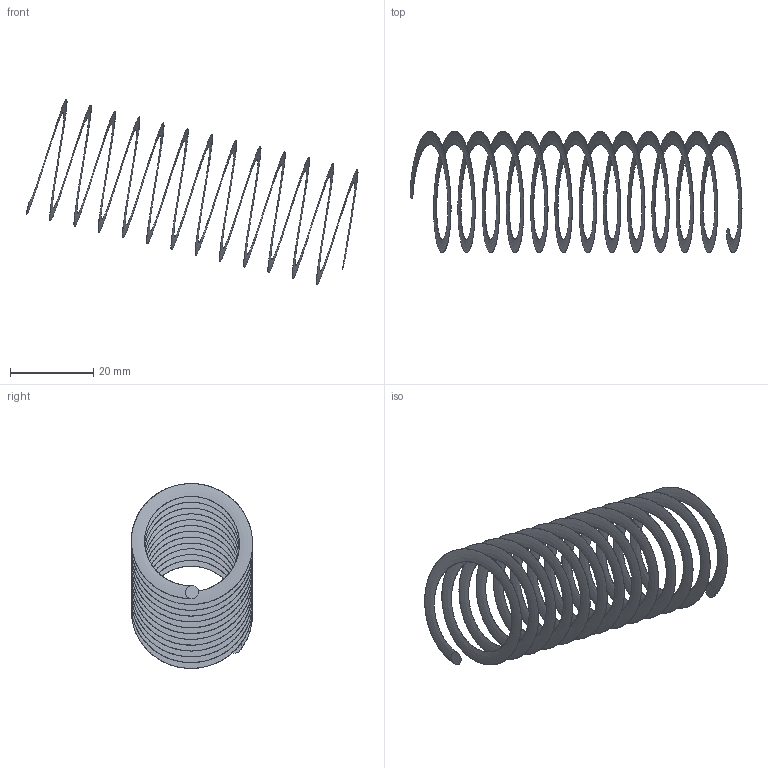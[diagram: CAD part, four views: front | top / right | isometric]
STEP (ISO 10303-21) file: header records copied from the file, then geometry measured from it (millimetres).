
FILE_DESCRIPTION(('Open CASCADE Model'),'2;1');
FILE_NAME('Open CASCADE Shape Model','2026-10-20T13:19:35',('Author'),( 'Open CASCADE'),'Open CASCADE STEP processor 7.9','Open CASCADE 7.9' ,'Unknown');
FILE_SCHEMA(('AUTOMOTIVE_DESIGN { 1 0 10303 214 1 1 1 1 }'));
Length unit declared in the file: millimetre
Products named in the file (1): Open CASCADE STEP translator 7.9 82
Bounding box: 79.89 x 29.2 x 44.5 mm (x, y, z)
Volume: 620.3 mm3; surface area: 6817.1 mm2
Topology: 1 solids, 1 shells, 3 faces, 3 edges, 2 vertices
Faces by surface type: plane 2, bspline 1
Entity records: 1397 total; most frequent: CARTESIAN_POINT 1325, DIRECTION 10, ORIENTED_EDGE 6, PCURVE 6, DEFINITIONAL_REPRESENTATION 6, LINE 4, VECTOR 4, AXIS2_PLACEMENT_3D 3
